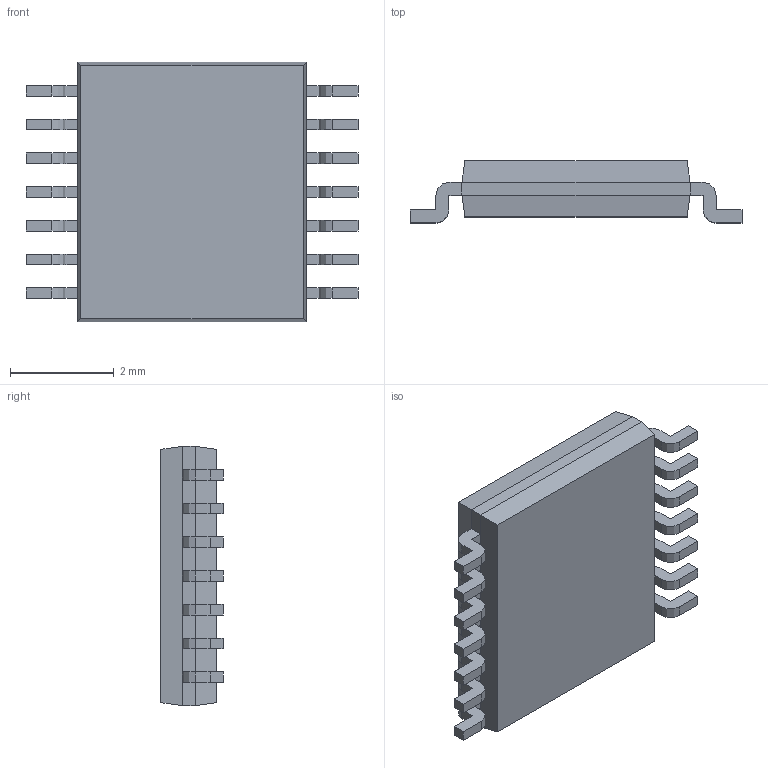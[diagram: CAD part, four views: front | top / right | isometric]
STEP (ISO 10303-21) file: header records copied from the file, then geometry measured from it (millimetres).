
FILE_DESCRIPTION(('FreeCAD Model'),'2;1');
FILE_NAME('Open CASCADE Shape Model','2025-09-25T05:14:12',(''),(''), 'Open CASCADE STEP processor 7.8','FreeCAD','Unknown');
FILE_SCHEMA(('AUTOMOTIVE_DESIGN { 1 0 10303 214 1 1 1 1 }'));
Length unit declared in the file: millimetre
Products named in the file (9): SOIC_standard; Array; Body001 (Mirror #1); Array001; Body001; Body; Body003; XY-plane; X-axis
Assembly tree (42 placements, depth 3):
  SOIC_standard
    Array
      Body001 (Mirror #1)  x7
    Array001
      Body001  x7
    Body
    Body003
    XY-plane  x12
    X-axis  x12
Bounding box: 6.4 x 1.2 x 5 mm (x, y, z)
Volume: 24.3 mm3; surface area: 82.2 mm2
Topology: 16 solids, 16 shells, 187 faces, 466 edges, 300 vertices
Faces by surface type: plane 157, cylinder 30
Full cylindrical faces by diameter (mm): 0.44 x2
Entity records: 1625 total; most frequent: DIRECTION 279, CARTESIAN_POINT 241, ORIENTED_EDGE 188, AXIS2_PLACEMENT_3D 98, EDGE_CURVE 94, LINE 83, VECTOR 83, VERTEX_POINT 60
